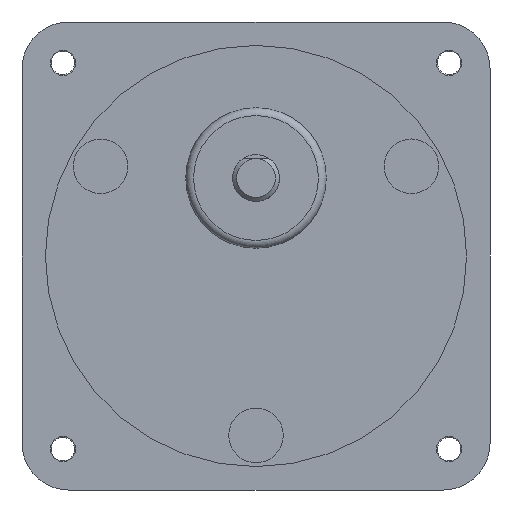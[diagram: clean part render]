
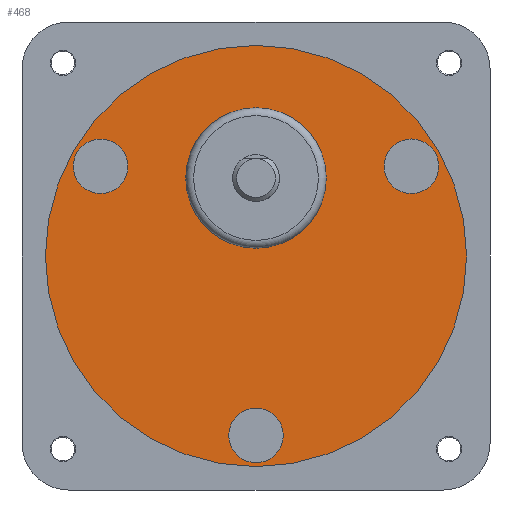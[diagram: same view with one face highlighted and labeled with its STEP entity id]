
A CAD part, front view. The second image highlights one B-rep face of the part: STEP entity #468.
In plain terms, the highlighted planar face has unit normal (0, -1, 0).
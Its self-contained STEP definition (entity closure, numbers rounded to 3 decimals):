
#317=CARTESIAN_POINT('',(18.169,0.5,14.531));
#318=VERTEX_POINT('',#317);
#319=CARTESIAN_POINT('',(19.919,0.5,11.5));
#320=DIRECTION('',(0.0,1.0,0.0));
#321=DIRECTION('',(0.5,0.0,-0.866));
#322=AXIS2_PLACEMENT_3D('',#319,#320,#321);
#323=CIRCLE('',#322,3.5);
#324=EDGE_CURVE('',#318,#318,#323,.T.);
#354=CARTESIAN_POINT('',(-21.669,0.5,8.469));
#355=VERTEX_POINT('',#354);
#356=CARTESIAN_POINT('',(-19.919,0.5,11.5));
#357=DIRECTION('',(0.0,1.,0.0));
#358=DIRECTION('',(0.5,0.0,0.866));
#359=AXIS2_PLACEMENT_3D('',#356,#357,#358);
#360=CIRCLE('',#359,3.5);
#361=EDGE_CURVE('',#355,#355,#360,.T.);
#391=CARTESIAN_POINT('',(3.5,0.5,-23.));
#392=VERTEX_POINT('',#391);
#393=CARTESIAN_POINT('',(0.0,0.5,-23.));
#394=DIRECTION('',(0.0,1.0,0.0));
#395=DIRECTION('',(-1.0,0.0,0.0));
#396=AXIS2_PLACEMENT_3D('',#393,#394,#395);
#397=CIRCLE('',#396,3.5);
#398=EDGE_CURVE('',#392,#392,#397,.T.);
#417=CARTESIAN_POINT('',(27.0,0.5,0.));
#418=VERTEX_POINT('',#417);
#419=CARTESIAN_POINT('',(0.0,0.5,0.0));
#420=DIRECTION('',(0.0,-1.0,0.0));
#421=DIRECTION('',(-1.0,0.0,0.0));
#422=AXIS2_PLACEMENT_3D('',#419,#420,#421);
#423=CIRCLE('',#422,27.0);
#424=EDGE_CURVE('',#418,#418,#423,.T.);
#440=CARTESIAN_POINT('',(0.0,0.5,0.0));
#441=DIRECTION('',(0.0,1.0,0.0));
#442=DIRECTION('',(0.0,0.0,1.0));
#443=AXIS2_PLACEMENT_3D('',#440,#441,#442);
#444=PLANE('',#443);
#445=ORIENTED_EDGE('',*,*,#424,.T.);
#446=EDGE_LOOP('',(#445));
#447=FACE_OUTER_BOUND('',#446,.T.);
#448=ORIENTED_EDGE('',*,*,#324,.T.);
#449=EDGE_LOOP('',(#448));
#450=FACE_BOUND('',#449,.T.);
#451=ORIENTED_EDGE('',*,*,#361,.T.);
#452=EDGE_LOOP('',(#451));
#453=FACE_BOUND('',#452,.T.);
#454=ORIENTED_EDGE('',*,*,#398,.T.);
#455=EDGE_LOOP('',(#454));
#456=FACE_BOUND('',#455,.T.);
#457=CARTESIAN_POINT('',(9.0,0.5,10.0));
#458=VERTEX_POINT('',#457);
#459=CARTESIAN_POINT('',(0.0,0.5,10.0));
#460=DIRECTION('',(0.0,-1.0,0.0));
#461=DIRECTION('',(-1.0,0.0,0.0));
#462=AXIS2_PLACEMENT_3D('',#459,#460,#461);
#463=CIRCLE('',#462,9.0);
#464=EDGE_CURVE('',#458,#458,#463,.T.);
#465=ORIENTED_EDGE('',*,*,#464,.F.);
#466=EDGE_LOOP('',(#465));
#467=FACE_BOUND('',#466,.T.);
#468=ADVANCED_FACE('',(#447,#450,#453,#456,#467),#444,.F.);
